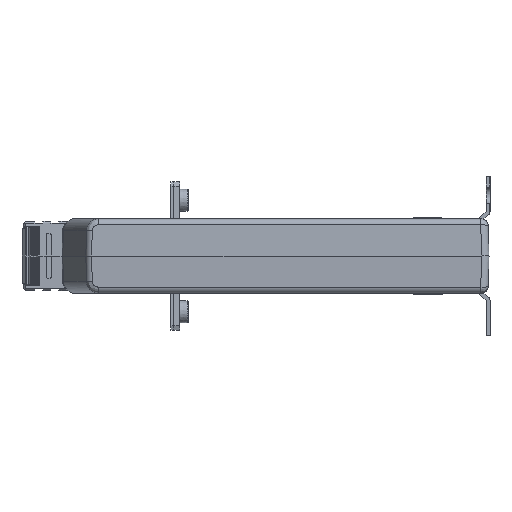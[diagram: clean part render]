
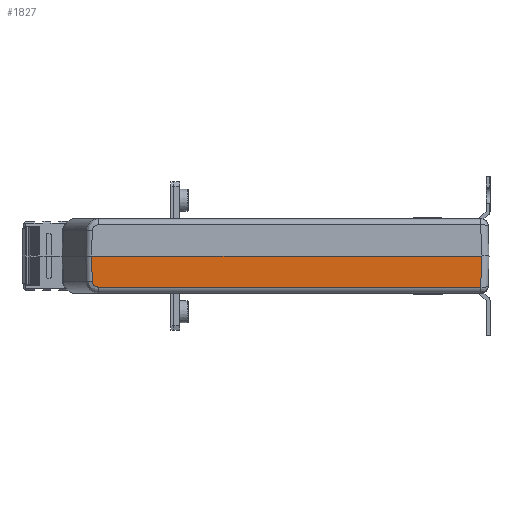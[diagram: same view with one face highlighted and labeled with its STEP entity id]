
A CAD part, left-side view. The second image highlights one B-rep face of the part: STEP entity #1827.
In plain terms, the highlighted planar face has unit normal (-1, 0, -0.026).
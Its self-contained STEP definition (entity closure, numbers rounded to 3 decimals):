
#845 = CARTESIAN_POINT ( 'NONE',  ( -79.197, 73.838, -11.565 ) ) ;
#1827 = ADVANCED_FACE ( 'NONE', ( #8411 ), #17550, .T. ) ;
#8411 = FACE_OUTER_BOUND ( 'NONE', #62420, .T. ) ;
#9185 = CARTESIAN_POINT ( 'NONE',  ( -79.5, -83.001, 0. ) ) ;
#12188 = DIRECTION ( 'NONE',  ( 0., -1., 0. ) ) ;
#12604 = EDGE_CURVE ( 'NONE', #38674, #124552, #43661, .T. ) ;
#12606 = ORIENTED_EDGE ( 'NONE', *, *, #121110, .T. ) ;
#13891 = VECTOR ( 'NONE', #128135, 1000. ) ;
#17550 = PLANE ( 'NONE',  #18069 ) ;
#18069 = AXIS2_PLACEMENT_3D ( 'NONE', #127042, #115356, #86808 ) ;
#20136 = ORIENTED_EDGE ( 'NONE', *, *, #12604, .F. ) ;
#23428 = ORIENTED_EDGE ( 'NONE', *, *, #107989, .T. ) ;
#29032 = CARTESIAN_POINT ( 'NONE',  ( -79.502, -83.003, 0.078 ) ) ;
#32275 = CARTESIAN_POINT ( 'NONE',  ( -79.171, -86., -12.565 ) ) ;
#33530 = VERTEX_POINT ( 'NONE', #86220 ) ;
#35182 = VERTEX_POINT ( 'NONE', #117814 ) ;
#35724 = VERTEX_POINT ( 'NONE', #89876 ) ;
#38674 = VERTEX_POINT ( 'NONE', #40947 ) ;
#40947 = CARTESIAN_POINT ( 'NONE',  ( -79.5, 74.05, 0. ) ) ;
#43661 = LINE ( 'NONE', #122670, #110219 ) ;
#51235 = EDGE_CURVE ( 'NONE', #38674, #33530, #59002, .T. ) ;
#52135 = EDGE_CURVE ( 'NONE', #35724, #124552, #100255, .T. ) ;
#59002 = LINE ( 'NONE', #90019, #79753 ) ;
#62420 = EDGE_LOOP ( 'NONE', ( #23428, #12606, #117608, #20136, #107759 ) ) ;
#63113 =( BOUNDED_CURVE ( )  B_SPLINE_CURVE ( 3, ( #87009, #845, #126611, #99305 ),
 .UNSPECIFIED., .F., .F. ) 
 B_SPLINE_CURVE_WITH_KNOTS ( ( 4, 4 ),
 ( 3.091, 4.636 ),
 .UNSPECIFIED. ) 
 CURVE ( )  GEOMETRIC_REPRESENTATION_ITEM ( )  RATIONAL_B_SPLINE_CURVE ( ( 1., 0.811, 0.811, 1. ) ) 
 REPRESENTATION_ITEM ( '' )  );
#79753 = VECTOR ( 'NONE', #100999, 1000. ) ;
#86220 = CARTESIAN_POINT ( 'NONE',  ( -79.235, 73.864, -10.131 ) ) ;
#86808 = DIRECTION ( 'NONE',  ( -0.026, 0., 1. ) ) ;
#87009 = CARTESIAN_POINT ( 'NONE',  ( -79.235, 73.864, -10.131 ) ) ;
#89876 = CARTESIAN_POINT ( 'NONE',  ( -79.171, -82.672, -12.565 ) ) ;
#90019 = CARTESIAN_POINT ( 'NONE',  ( -79.423, 73.996, -2.932 ) ) ;
#99305 = CARTESIAN_POINT ( 'NONE',  ( -79.171, 71.228, -12.565 ) ) ;
#100255 = LINE ( 'NONE', #29032, #13891 ) ;
#100936 = LINE ( 'NONE', #32275, #106415 ) ;
#100999 = DIRECTION ( 'NONE',  ( 0.026, -0.018, -0.999 ) ) ;
#106415 = VECTOR ( 'NONE', #12188, 1000. ) ;
#107759 = ORIENTED_EDGE ( 'NONE', *, *, #51235, .T. ) ;
#107989 = EDGE_CURVE ( 'NONE', #33530, #35182, #63113, .T. ) ;
#110219 = VECTOR ( 'NONE', #112923, 1000. ) ;
#112923 = DIRECTION ( 'NONE',  ( 0., -1., 0. ) ) ;
#115356 = DIRECTION ( 'NONE',  ( -1., 0., -0.026 ) ) ;
#117608 = ORIENTED_EDGE ( 'NONE', *, *, #52135, .T. ) ;
#117814 = CARTESIAN_POINT ( 'NONE',  ( -79.171, 71.228, -12.565 ) ) ;
#121110 = EDGE_CURVE ( 'NONE', #35182, #35724, #100936, .T. ) ;
#122670 = CARTESIAN_POINT ( 'NONE',  ( -79.5, -86., 0. ) ) ;
#124552 = VERTEX_POINT ( 'NONE', #9185 ) ;
#126611 = CARTESIAN_POINT ( 'NONE',  ( -79.171, 72.754, -12.565 ) ) ;
#127042 = CARTESIAN_POINT ( 'NONE',  ( -79.5, -86., 0. ) ) ;
#128135 = DIRECTION ( 'NONE',  ( -0.026, -0.026, 0.999 ) ) ;
